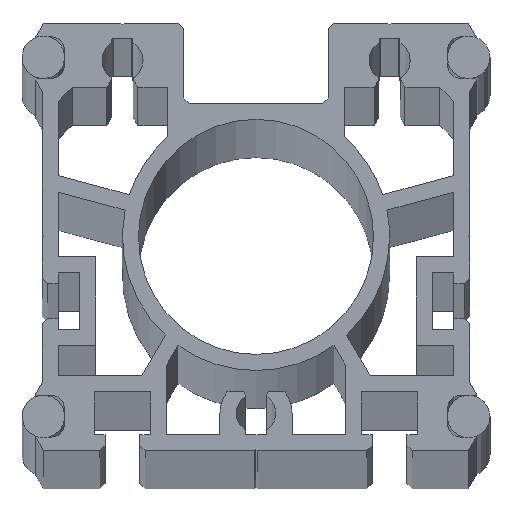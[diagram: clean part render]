
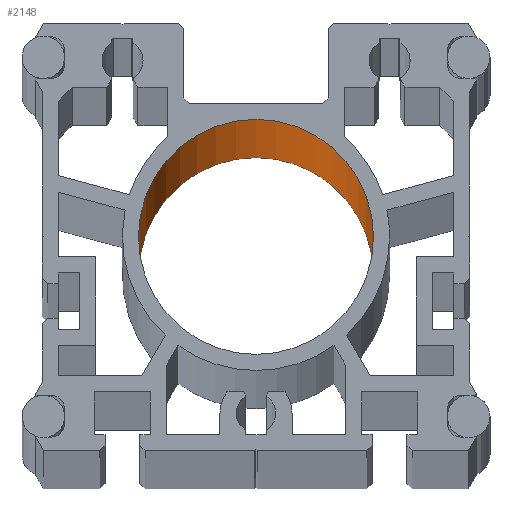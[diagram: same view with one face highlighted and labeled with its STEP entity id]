
A CAD part, top view. The second image highlights one B-rep face of the part: STEP entity #2148.
In plain terms, the highlighted cylindrical face has radius 22 mm (diameter 44 mm), a partial arc.
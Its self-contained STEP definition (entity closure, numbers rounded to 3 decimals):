
#1328 = EDGE_CURVE ( 'NONE', #2371, #2370, #4885, .T. ) ;
#2146 = EDGE_CURVE ( 'NONE', #2394, #2660, #6110, .T. ) ;
#2148 = ADVANCED_FACE ( 'NONE', ( #6105 ), #6104, .F. ) ;
#2149 = EDGE_LOOP ( 'NONE', ( #2150, #2151, #2152, #2153 ) ) ;
#2150 = ORIENTED_EDGE ( 'NONE', *, *, #2678, .F. ) ;
#2151 = ORIENTED_EDGE ( 'NONE', *, *, #1328, .F. ) ;
#2152 = ORIENTED_EDGE ( 'NONE', *, *, #2393, .T. ) ;
#2153 = ORIENTED_EDGE ( 'NONE', *, *, #2146, .T. ) ;
#2370 = VERTEX_POINT ( 'NONE', #6467 ) ;
#2371 = VERTEX_POINT ( 'NONE', #6466 ) ;
#2393 = EDGE_CURVE ( 'NONE', #2371, #2394, #6417, .T. ) ;
#2394 = VERTEX_POINT ( 'NONE', #6413 ) ;
#2660 = VERTEX_POINT ( 'NONE', #6909 ) ;
#2678 = EDGE_CURVE ( 'NONE', #2370, #2660, #6862, .T. ) ;
#4881 = DIRECTION ( 'NONE',  ( 1., 0., 0. ) ) ;
#4882 = DIRECTION ( 'NONE',  ( 0., 0., 1. ) ) ;
#4883 = CARTESIAN_POINT ( 'NONE',  ( 0., 40., -2049. ) ) ;
#4884 = AXIS2_PLACEMENT_3D ( 'NONE', #4883, #4882, #4881 ) ;
#4885 = CIRCLE ( 'NONE', #4884, 22. ) ;
#6099 = DIRECTION ( 'NONE',  ( 1., 0., 0. ) ) ;
#6100 = DIRECTION ( 'NONE',  ( 0., 0., 1. ) ) ;
#6101 = CARTESIAN_POINT ( 'NONE',  ( 0., 40., -2049. ) ) ;
#6102 = AXIS2_PLACEMENT_3D ( 'NONE', #6101, #6100, #6099 ) ;
#6104 = CYLINDRICAL_SURFACE ( 'NONE', #6102, 22. ) ;
#6105 = FACE_OUTER_BOUND ( 'NONE', #2149, .T. ) ;
#6106 = DIRECTION ( 'NONE',  ( 1., 0., 0. ) ) ;
#6107 = DIRECTION ( 'NONE',  ( 0., 0., 1. ) ) ;
#6108 = CARTESIAN_POINT ( 'NONE',  ( 0., 40., 2049. ) ) ;
#6109 = AXIS2_PLACEMENT_3D ( 'NONE', #6108, #6107, #6106 ) ;
#6110 = CIRCLE ( 'NONE', #6109, 22. ) ;
#6413 = CARTESIAN_POINT ( 'NONE',  ( 22., 40., 2049. ) ) ;
#6414 = DIRECTION ( 'NONE',  ( 0., 0., 1. ) ) ;
#6415 = VECTOR ( 'NONE', #6414, 1000. ) ;
#6416 = CARTESIAN_POINT ( 'NONE',  ( 22., 40., -2049. ) ) ;
#6417 = LINE ( 'NONE', #6416, #6415 ) ;
#6466 = CARTESIAN_POINT ( 'NONE',  ( 22., 40., -2049. ) ) ;
#6467 = CARTESIAN_POINT ( 'NONE',  ( -22., 40., -2049. ) ) ;
#6676 = VECTOR ( 'NONE', #6860, 1000. ) ;
#6860 = DIRECTION ( 'NONE',  ( 0., 0., 1. ) ) ;
#6861 = CARTESIAN_POINT ( 'NONE',  ( -22., 40., -2049. ) ) ;
#6862 = LINE ( 'NONE', #6861, #6676 ) ;
#6909 = CARTESIAN_POINT ( 'NONE',  ( -22., 40., 2049. ) ) ;
